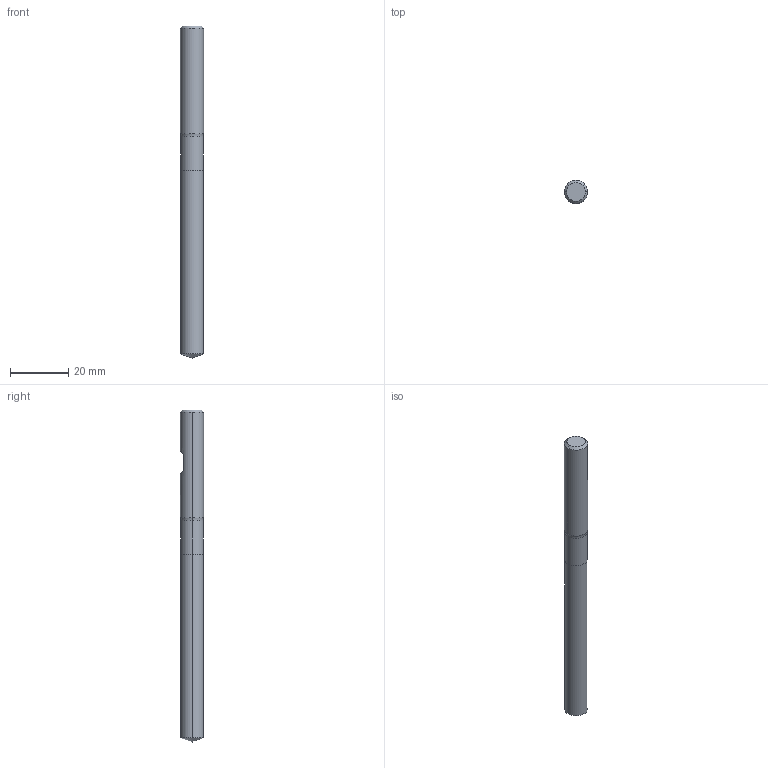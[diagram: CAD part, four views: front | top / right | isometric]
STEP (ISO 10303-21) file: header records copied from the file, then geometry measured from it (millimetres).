
FILE_DESCRIPTION (( 'STEP AP214' ), '1' );
FILE_NAME ('754.077.10_3D-model.step', '2023-08-21T12:08:45', ( '' ), ( '' ), 'SwSTEP 2.0', 'SolidWorks 2020', '' );
FILE_SCHEMA (( 'AUTOMOTIVE_DESIGN' ));
Length unit declared in the file: millimetre
Products named in the file (3): 754.077.10_3D-model; CUT-3D^Baugr116; NOCUT-3D^Baugr116
Assembly tree (2 placements, depth 2):
  754.077.10_3D-model
    CUT-3D^Baugr116
    NOCUT-3D^Baugr116
Bounding box: 8 x 8 x 114 mm (x, y, z)
Volume: 5368.8 mm3; surface area: 2939.4 mm2
Topology: 2 solids, 2 shells, 18 faces, 34 edges, 19 vertices
Faces by surface type: cylinder 6, plane 6, cone 4, torus 2
Entity records: 558 total; most frequent: DIRECTION 98, CARTESIAN_POINT 83, ORIENTED_EDGE 64, AXIS2_PLACEMENT_3D 42, EDGE_CURVE 32, EDGE_LOOP 19, VERTEX_POINT 19, ADVANCED_FACE 18
